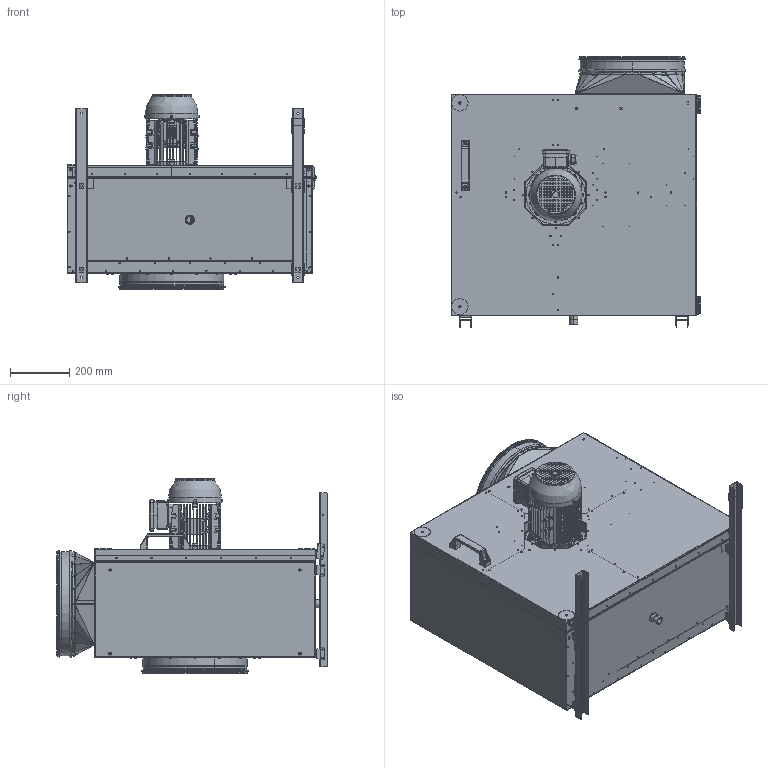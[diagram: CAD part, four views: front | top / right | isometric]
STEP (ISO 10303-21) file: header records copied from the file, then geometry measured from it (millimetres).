
FILE_DESCRIPTION (( 'STEP AP203' ), '1' );
FILE_NAME ('145867-00_MPS450D4F430_step.step', '2018-10-09T11:35:27', ( '' ), ( '' ), 'SwSTEP 2.0', 'SolidWorks 2017', '' );
FILE_SCHEMA (( 'CONFIG_CONTROL_DESIGN' ));
Products named in the file (1): 145867-00_MPS450D4F430_step
Bounding box: 846.85 x 916.48 x 659.4 mm (x, y, z)
Surface area: 10010396.9 mm2 (no closed solid volume)
Topology: 0 solids, 258 shells, 2713 faces, 16006 edges, 13107 vertices
Faces by surface type: plane 1528, cylinder 867, bspline 144, torus 106, cone 68
Entity records: 191991 total; most frequent: CARTESIAN_POINT 71447, DIRECTION 24681, ORIENTED_EDGE 20721, EDGE_CURVE 16003, VERTEX_POINT 13107, VECTOR 9111, LINE 9111, AXIS2_PLACEMENT_3D 7785
